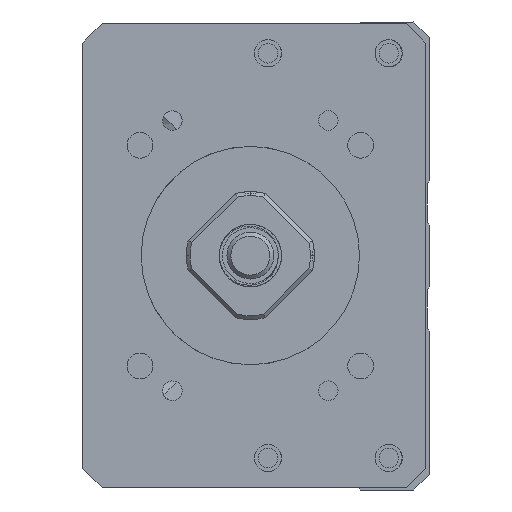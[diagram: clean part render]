
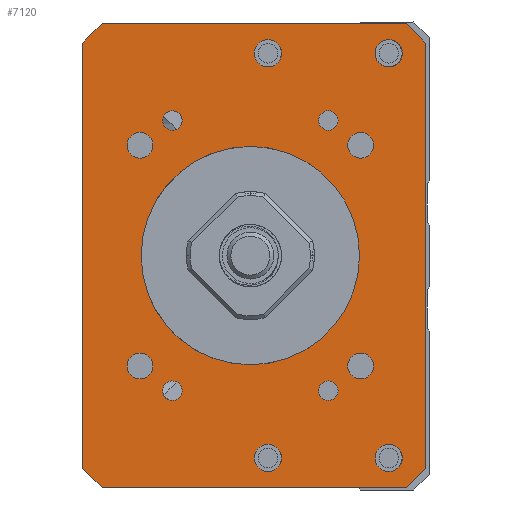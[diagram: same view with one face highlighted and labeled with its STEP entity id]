
A CAD part, left-side view. The second image highlights one B-rep face of the part: STEP entity #7120.
In plain terms, the highlighted planar face has unit normal (-1, 0, 0).
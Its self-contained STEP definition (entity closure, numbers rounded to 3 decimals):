
#4268=CIRCLE('',#14058,14.);
#4277=CIRCLE('',#14069,1.65);
#4278=CIRCLE('',#14070,1.65);
#4279=CIRCLE('',#14071,1.65);
#4280=CIRCLE('',#14072,1.65);
#4281=CIRCLE('',#14073,1.25);
#4282=CIRCLE('',#14074,1.75);
#4283=CIRCLE('',#14075,1.25);
#4284=CIRCLE('',#14076,1.75);
#4285=CIRCLE('',#14077,1.25);
#4286=CIRCLE('',#14078,1.75);
#4287=CIRCLE('',#14079,1.75);
#4288=CIRCLE('',#14080,1.25);
#4708=PLANE('',#14081);
#5497=LINE('',#18194,#6304);
#5499=LINE('',#18218,#6306);
#5500=LINE('',#18220,#6307);
#5501=LINE('',#18222,#6308);
#5502=LINE('',#18224,#6309);
#5503=LINE('',#18226,#6310);
#5504=LINE('',#18228,#6311);
#5505=LINE('',#18230,#6312);
#6304=VECTOR('',#15179,1.);
#6306=VECTOR('',#15203,1.);
#6307=VECTOR('',#15204,1.);
#6308=VECTOR('',#15205,1.);
#6309=VECTOR('',#15206,1.);
#6310=VECTOR('',#15207,1.);
#6311=VECTOR('',#15208,1.);
#6312=VECTOR('',#15209,1.);
#7120=ADVANCED_FACE('',(#7880,#7881,#7882,#7883,#7884,#7885,#7886,#7887,
#7888,#7889,#7890,#7891,#7892,#7893),#4708,.F.);
#7880=FACE_BOUND('',#8299,.T.);
#7881=FACE_BOUND('',#8300,.T.);
#7882=FACE_BOUND('',#8301,.T.);
#7883=FACE_BOUND('',#8302,.T.);
#7884=FACE_BOUND('',#8303,.T.);
#7885=FACE_BOUND('',#8304,.T.);
#7886=FACE_BOUND('',#8305,.T.);
#7887=FACE_BOUND('',#8306,.T.);
#7888=FACE_BOUND('',#8307,.T.);
#7889=FACE_BOUND('',#8308,.T.);
#7890=FACE_BOUND('',#8309,.T.);
#7891=FACE_BOUND('',#8310,.T.);
#7892=FACE_BOUND('',#8311,.T.);
#7893=FACE_BOUND('',#8312,.T.);
#8299=EDGE_LOOP('',(#9239));
#8300=EDGE_LOOP('',(#9240));
#8301=EDGE_LOOP('',(#9241));
#8302=EDGE_LOOP('',(#9242));
#8303=EDGE_LOOP('',(#9243));
#8304=EDGE_LOOP('',(#9244));
#8305=EDGE_LOOP('',(#9245));
#8306=EDGE_LOOP('',(#9246));
#8307=EDGE_LOOP('',(#9247));
#8308=EDGE_LOOP('',(#9248,#9249,#9250,#9251,#9252,#9253,#9254,#9255));
#8309=EDGE_LOOP('',(#9256));
#8310=EDGE_LOOP('',(#9257));
#8311=EDGE_LOOP('',(#9258));
#8312=EDGE_LOOP('',(#9259));
#9239=ORIENTED_EDGE('',*,*,#12692,.F.);
#9240=ORIENTED_EDGE('',*,*,#12693,.F.);
#9241=ORIENTED_EDGE('',*,*,#12694,.F.);
#9242=ORIENTED_EDGE('',*,*,#12695,.F.);
#9243=ORIENTED_EDGE('',*,*,#12696,.F.);
#9244=ORIENTED_EDGE('',*,*,#12697,.T.);
#9245=ORIENTED_EDGE('',*,*,#12698,.F.);
#9246=ORIENTED_EDGE('',*,*,#12699,.F.);
#9247=ORIENTED_EDGE('',*,*,#12700,.F.);
#9248=ORIENTED_EDGE('',*,*,#12689,.T.);
#9249=ORIENTED_EDGE('',*,*,#12701,.T.);
#9250=ORIENTED_EDGE('',*,*,#12702,.F.);
#9251=ORIENTED_EDGE('',*,*,#12703,.T.);
#9252=ORIENTED_EDGE('',*,*,#12704,.F.);
#9253=ORIENTED_EDGE('',*,*,#12705,.T.);
#9254=ORIENTED_EDGE('',*,*,#12706,.T.);
#9255=ORIENTED_EDGE('',*,*,#12707,.T.);
#9256=ORIENTED_EDGE('',*,*,#12708,.F.);
#9257=ORIENTED_EDGE('',*,*,#12709,.F.);
#9258=ORIENTED_EDGE('',*,*,#12710,.F.);
#9259=ORIENTED_EDGE('',*,*,#12669,.F.);
#11720=VERTEX_POINT('',#18133);
#11740=VERTEX_POINT('',#18193);
#11741=VERTEX_POINT('',#18195);
#11743=VERTEX_POINT('',#18201);
#11744=VERTEX_POINT('',#18203);
#11745=VERTEX_POINT('',#18205);
#11746=VERTEX_POINT('',#18207);
#11747=VERTEX_POINT('',#18209);
#11748=VERTEX_POINT('',#18211);
#11749=VERTEX_POINT('',#18213);
#11750=VERTEX_POINT('',#18215);
#11751=VERTEX_POINT('',#18217);
#11752=VERTEX_POINT('',#18219);
#11753=VERTEX_POINT('',#18221);
#11754=VERTEX_POINT('',#18223);
#11755=VERTEX_POINT('',#18225);
#11756=VERTEX_POINT('',#18227);
#11757=VERTEX_POINT('',#18229);
#11758=VERTEX_POINT('',#18232);
#11759=VERTEX_POINT('',#18234);
#11760=VERTEX_POINT('',#18236);
#12669=EDGE_CURVE('',#11720,#11720,#4268,.T.);
#12689=EDGE_CURVE('',#11741,#11740,#5497,.T.);
#12692=EDGE_CURVE('',#11743,#11743,#4277,.T.);
#12693=EDGE_CURVE('',#11744,#11744,#4278,.T.);
#12694=EDGE_CURVE('',#11745,#11745,#4279,.T.);
#12695=EDGE_CURVE('',#11746,#11746,#4280,.T.);
#12696=EDGE_CURVE('',#11747,#11747,#4281,.T.);
#12697=EDGE_CURVE('',#11748,#11748,#4282,.T.);
#12698=EDGE_CURVE('',#11749,#11749,#4283,.T.);
#12699=EDGE_CURVE('',#11750,#11750,#4284,.T.);
#12700=EDGE_CURVE('',#11751,#11751,#4285,.T.);
#12701=EDGE_CURVE('',#11740,#11752,#5499,.T.);
#12702=EDGE_CURVE('',#11753,#11752,#5500,.T.);
#12703=EDGE_CURVE('',#11753,#11754,#5501,.T.);
#12704=EDGE_CURVE('',#11755,#11754,#5502,.T.);
#12705=EDGE_CURVE('',#11755,#11756,#5503,.T.);
#12706=EDGE_CURVE('',#11756,#11757,#5504,.T.);
#12707=EDGE_CURVE('',#11757,#11741,#5505,.T.);
#12708=EDGE_CURVE('',#11758,#11758,#4286,.T.);
#12709=EDGE_CURVE('',#11759,#11759,#4287,.T.);
#12710=EDGE_CURVE('',#11760,#11760,#4288,.T.);
#14058=AXIS2_PLACEMENT_3D('',#18132,#15153,#15154);
#14069=AXIS2_PLACEMENT_3D('',#18200,#15185,#15186);
#14070=AXIS2_PLACEMENT_3D('',#18202,#15187,#15188);
#14071=AXIS2_PLACEMENT_3D('',#18204,#15189,#15190);
#14072=AXIS2_PLACEMENT_3D('',#18206,#15191,#15192);
#14073=AXIS2_PLACEMENT_3D('',#18208,#15193,#15194);
#14074=AXIS2_PLACEMENT_3D('',#18210,#15195,#15196);
#14075=AXIS2_PLACEMENT_3D('',#18212,#15197,#15198);
#14076=AXIS2_PLACEMENT_3D('',#18214,#15199,#15200);
#14077=AXIS2_PLACEMENT_3D('',#18216,#15201,#15202);
#14078=AXIS2_PLACEMENT_3D('',#18231,#15210,#15211);
#14079=AXIS2_PLACEMENT_3D('',#18233,#15212,#15213);
#14080=AXIS2_PLACEMENT_3D('',#18235,#15214,#15215);
#14081=AXIS2_PLACEMENT_3D('',#18237,#15216,#15217);
#15153=DIRECTION('',(-1.,0.,0.));
#15154=DIRECTION('',(0.,1.,0.));
#15179=DIRECTION('',(0.,0.,-1.));
#15185=DIRECTION('',(-1.,0.,0.));
#15186=DIRECTION('',(0.,0.,1.));
#15187=DIRECTION('',(-1.,0.,0.));
#15188=DIRECTION('',(0.,0.,1.));
#15189=DIRECTION('',(-1.,0.,0.));
#15190=DIRECTION('',(0.,0.,1.));
#15191=DIRECTION('',(-1.,0.,0.));
#15192=DIRECTION('',(0.,0.,1.));
#15193=DIRECTION('',(-1.,0.,0.));
#15194=DIRECTION('',(0.,1.,0.));
#15195=DIRECTION('',(1.,0.,0.));
#15196=DIRECTION('',(0.,0.,1.));
#15197=DIRECTION('',(-1.,0.,0.));
#15198=DIRECTION('',(0.,1.,0.));
#15199=DIRECTION('',(-1.,0.,0.));
#15200=DIRECTION('',(0.,0.,1.));
#15201=DIRECTION('',(-1.,0.,0.));
#15202=DIRECTION('',(0.,1.,0.));
#15203=DIRECTION('',(0.,-0.707,-0.707));
#15204=DIRECTION('',(0.,1.,0.));
#15205=DIRECTION('',(0.,-0.707,0.707));
#15206=DIRECTION('',(0.,0.,-1.));
#15207=DIRECTION('',(0.,0.707,0.707));
#15208=DIRECTION('',(0.,1.,0.));
#15209=DIRECTION('',(0.,0.707,-0.707));
#15210=DIRECTION('',(-1.,0.,0.));
#15211=DIRECTION('',(0.,0.,1.));
#15212=DIRECTION('',(-1.,0.,0.));
#15213=DIRECTION('',(0.,0.,1.));
#15214=DIRECTION('',(-1.,0.,0.));
#15215=DIRECTION('',(0.,1.,0.));
#15216=DIRECTION('',(1.,0.,0.));
#15217=DIRECTION('',(0.,1.,0.));
#18132=CARTESIAN_POINT('',(-211.,0.,-400.));
#18133=CARTESIAN_POINT('',(-211.,14.,-400.));
#18193=CARTESIAN_POINT('',(-211.,21.499,-427.25));
#18194=CARTESIAN_POINT('',(-211.,21.499,-370.25));
#18195=CARTESIAN_POINT('',(-211.,21.499,-372.75));
#18200=CARTESIAN_POINT('',(-211.,14.142,-385.858));
#18201=CARTESIAN_POINT('',(-211.,14.142,-384.208));
#18202=CARTESIAN_POINT('',(-211.,-14.142,-385.858));
#18203=CARTESIAN_POINT('',(-211.,-14.142,-384.208));
#18204=CARTESIAN_POINT('',(-211.,14.142,-414.142));
#18205=CARTESIAN_POINT('',(-211.,14.142,-412.492));
#18206=CARTESIAN_POINT('',(-211.,-14.142,-414.142));
#18207=CARTESIAN_POINT('',(-211.,-14.142,-412.492));
#18208=CARTESIAN_POINT('',(-211.,-10.,-417.321));
#18209=CARTESIAN_POINT('',(-211.,-8.75,-417.321));
#18210=CARTESIAN_POINT('',(-211.,-2.25,-425.936));
#18211=CARTESIAN_POINT('',(-211.,-2.25,-424.186));
#18212=CARTESIAN_POINT('',(-211.,10.,-382.679));
#18213=CARTESIAN_POINT('',(-211.,11.25,-382.679));
#18214=CARTESIAN_POINT('',(-211.,-2.25,-374.064));
#18215=CARTESIAN_POINT('',(-211.,-2.25,-372.314));
#18216=CARTESIAN_POINT('',(-211.,10.,-417.321));
#18217=CARTESIAN_POINT('',(-211.,11.25,-417.321));
#18218=CARTESIAN_POINT('',(-211.,18.999,-429.75));
#18219=CARTESIAN_POINT('',(-211.,18.999,-429.75));
#18220=CARTESIAN_POINT('',(-211.,-22.501,-429.75));
#18221=CARTESIAN_POINT('',(-211.,-20.001,-429.75));
#18222=CARTESIAN_POINT('',(-211.,-22.501,-427.25));
#18223=CARTESIAN_POINT('',(-211.,-22.501,-427.25));
#18224=CARTESIAN_POINT('',(-211.,-22.501,-370.25));
#18225=CARTESIAN_POINT('',(-211.,-22.501,-372.75));
#18226=CARTESIAN_POINT('',(-211.,-22.501,-372.75));
#18227=CARTESIAN_POINT('',(-211.,-20.001,-370.25));
#18228=CARTESIAN_POINT('',(-211.,-22.501,-370.25));
#18229=CARTESIAN_POINT('',(-211.,18.999,-370.25));
#18230=CARTESIAN_POINT('',(-211.,18.999,-370.25));
#18231=CARTESIAN_POINT('',(-211.,-17.75,-374.064));
#18232=CARTESIAN_POINT('',(-211.,-17.75,-372.314));
#18233=CARTESIAN_POINT('',(-211.,-17.75,-425.936));
#18234=CARTESIAN_POINT('',(-211.,-17.75,-424.186));
#18235=CARTESIAN_POINT('',(-211.,-10.,-382.679));
#18236=CARTESIAN_POINT('',(-211.,-8.75,-382.679));
#18237=CARTESIAN_POINT('',(-211.,-22.501,-370.25));
